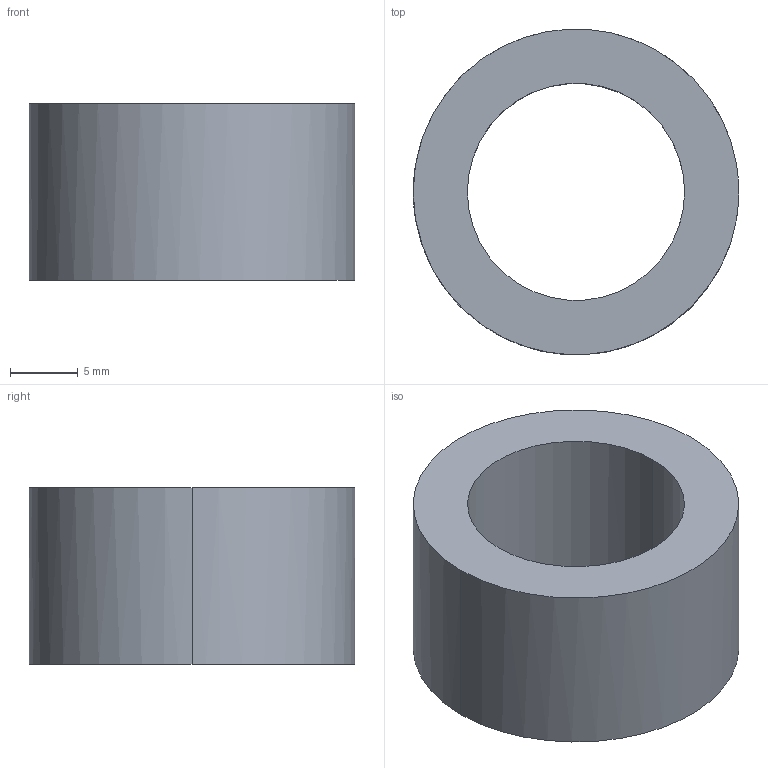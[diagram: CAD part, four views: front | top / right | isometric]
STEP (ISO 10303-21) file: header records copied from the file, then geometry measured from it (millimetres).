
FILE_DESCRIPTION(/* description */ (''),/* implementation_level */ '2;1');
FILE_NAME(/* name */ 'Nut',/* time_stamp */ '2023-04-19T22:54:39-04:00',/* author */ (''),/* organization */ (''),/* preprocessor_version */ 'ST-DEVELOPER v15',/* originating_system */ '',/* authorisation */ '');
FILE_SCHEMA (('CONFIG_CONTROL_DESIGN'));
Length unit declared in the file: millimetre
Products named in the file (1): Document
Bounding box: 24 x 23.97 x 13 mm (x, y, z)
Volume: 3275.6 mm3; surface area: 2139.3 mm2
Topology: 1 solids, 1 shells, 6 faces, 12 edges, 8 vertices
Faces by surface type: bspline 6
Entity records: 414 total; most frequent: CARTESIAN_POINT 178, ORIENTED_EDGE 24, PCURVE 24, DEFINITIONAL_REPRESENTATION 24, B_SPLINE_CURVE_WITH_KNOTS 16, SURFACE_CURVE 12, EDGE_CURVE 12, EDGE_LOOP 8
